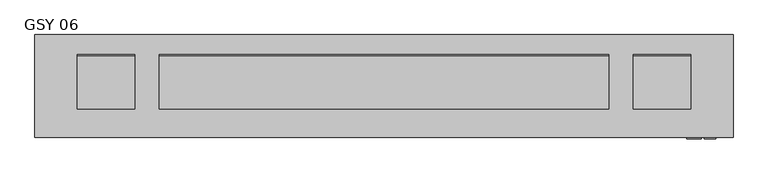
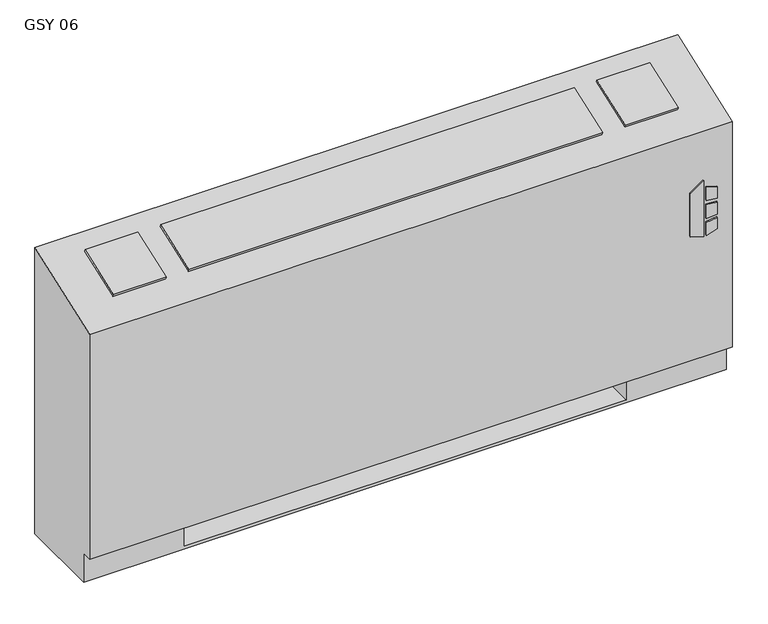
"""IFC4 building model written with IfcOpenShell, lengths in millimetres: proxy geometry, Vertical_Fan_Coil_Unit_-_GSY_-_IEC_-_2-Pipe_TS-FR_RH_2022 : GSY 06."""

from ifc_helpers import new_model, si_unit, point, frame, frame_2d, origin, place, context, project, spatial, polyline, circle_curve, trimmed, segment, composite_curve, outline, extrude, source, transform, mapped, element, save
from ifc_brep_helpers import plane_surface, revolved_surface, advanced_brep


def gsy_06_7a3696df(model_context):
    return source(origin(), model_context, "Body", "SolidModel", [
        extrude(outline(polyline([(391.6086829, 823.9868862), (381.6606126, 856.1602728), (523.831537, 856.1602728), (500.8095309, 823.9868862), (391.6086829, 823.9868862)])), frame((0.0, 12.7, 0.0), z_axis=(0.0, 1.0, 0.0), x_axis=(0.0, 0.0, 1.0)), (0.0, 0.0, 1.0), 3.175),
        extrude(outline(polyline([(470.6079683, 862.9186058), (467.4055757, 889.0), (496.6344168, 889.0), (504.6988318, 862.9186058), (470.6079683, 862.9186058)])), frame((0.0, 12.7, 0.0), z_axis=(0.0, 1.0, 0.0), x_axis=(0.0, 0.0, 1.0)), (0.0, 0.0, 1.0), 3.175),
        extrude(outline(polyline([(418.7444414, 889.0), (415.0789404, 862.9186058), (381.6606126, 862.9186058), (390.2948498, 889.0), (418.7444414, 889.0)])), frame((0.0, 12.7, 0.0), z_axis=(0.0, 1.0, 0.0), x_axis=(0.0, 0.0, 1.0)), (0.0, 0.0, 1.0), 3.175),
        extrude(outline(polyline([(458.0596028, 889.0), (460.3414292, 862.9186058), (424.4038806, 862.9186058), (427.1451456, 889.0), (458.0596028, 889.0)])), frame((0.0, 12.7, 0.0), z_axis=(0.0, 1.0, 0.0), x_axis=(0.0, 0.0, 1.0)), (0.0, 0.0, 1.0), 3.175),
        extrude(outline(polyline([(0.0, -126.2347031), (0.0, 0.0), (127.0, 0.0), (127.0, -126.2347031), (0.0, -126.2347031)])), frame((-528.193, 200.4217127, 714.3418685), z_axis=(0.0, -0.33964446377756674, 0.9405538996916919), x_axis=(1.0, 0.0, 0.0)), (0.0, 0.0, 1.0), 6.35),
        extrude(outline(polyline([(0.0, -126.2347031), (0.0, 0.0), (996.95, 0.0), (996.95, -126.2347031), (0.0, -126.2347031)])), frame((650.875, 81.6911704, 671.4669504), z_axis=(0.0, -0.3396444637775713, 0.9405538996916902), x_axis=(-1.0, 0.0, 0.0)), (0.0, 0.0, 1.0), 6.35),
        extrude(outline(polyline([(0.0, -126.2347031), (0.0, 0.0), (127.0, 0.0), (127.0, -126.2347031), (0.0, -126.2347031)])), frame((832.993, 81.6911704, 671.4669504), z_axis=(0.0, -0.3396444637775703, 0.9405538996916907), x_axis=(-1.0, 0.0, 0.0)), (0.0, 0.0, 1.0), 6.35),
        extrude(outline(polyline([(-501.65, 81.534), (-501.65, 223.266), (-127.0, 223.266), (-127.0, 81.534), (-501.65, 81.534)])), frame((0.0, 0.0, 327.025), z_axis=(0.0, 0.0, 1.0), x_axis=(1.0, 0.0, 0.0)), (0.0, 0.0, 1.0), 260.35),
        extrude(outline(composite_curve([segment(trimmed(circle_curve(frame_2d((80.645, 397.002)), 7.9375), [point((80.645, 404.9395))], [point((80.645, 389.0645))], False, "CARTESIAN"), True, "CONTINUOUS"), segment(trimmed(circle_curve(frame_2d((80.645, 397.002)), 7.9375), [point((80.645, 389.0645))], [point((80.645, 404.9395))], False, "CARTESIAN"), True, "CONTINUOUS")], self_intersect=False)), frame((685.8, 0.0, 0.0), z_axis=(1.0, 0.0, 0.0), x_axis=(0.0, 1.0, 0.0)), (0.0, 0.0, 1.0), 50.8),
        extrude(outline(composite_curve([segment(trimmed(circle_curve(frame_2d((156.8958, 535.8892)), 7.9375), [point((156.8958, 543.8267))], [point((156.8958, 527.9517))], False, "CARTESIAN"), True, "CONTINUOUS"), segment(trimmed(circle_curve(frame_2d((156.8958, 535.8892)), 7.9375), [point((156.8958, 527.9517))], [point((156.8958, 543.8267))], False, "CARTESIAN"), True, "CONTINUOUS")], self_intersect=False)), frame((685.8, 0.0, 0.0), z_axis=(1.0, 0.0, 0.0), x_axis=(0.0, 1.0, 0.0)), (0.0, 0.0, 1.0), 50.8),
        advanced_brep(
        [(-622.3, 244.475, 0.0), (927.1, 244.475, 0.0), (927.1, 41.275, 0.0), (-622.3, 41.275, 0.0), (-622.3, 244.475, 730.25), (927.1, 244.475, 730.25), (685.8, 244.475, 73.025), (914.4, 244.475, 73.025), (914.4, 244.475, 654.05), (685.8, 244.475, 654.05), (685.8, 244.475, 414.8650565), (714.375, 244.475, 414.8650565), (714.375, 244.475, 385.2349435), (685.8, 244.475, 385.2349435), (685.8, 244.475, 287.3375), (714.375, 244.475, 287.3375), (714.375, 244.475, 258.7625), (685.8, 244.475, 258.7625), (685.8, 244.475, 141.2875), (714.375, 244.475, 141.2875), (714.375, 244.475, 112.7125), (685.8, 244.475, 112.7125), (-381.0, 244.475, 654.05), (-609.6, 244.475, 654.05), (-609.6, 244.475, 73.025), (-381.0, 244.475, 73.025), (-381.0, 244.475, 112.7125), (-409.575, 244.475, 112.7125), (-409.575, 244.475, 141.2875), (-381.0, 244.475, 141.2875), (-381.0, 244.475, 258.7625), (-409.575, 244.475, 258.7625), (-409.575, 244.475, 287.3375), (-381.0, 244.475, 287.3375), (-381.0, 244.475, 385.2349435), (-409.575, 244.475, 385.2349435), (-409.575, 244.475, 414.8650565), (-381.0, 244.475, 414.8650565), (704.0626, 244.475, 127.0), (692.9374, 244.475, 127.0), (704.0626, 244.475, 400.05), (692.9374, 244.475, 400.05), (704.0626, 244.475, 273.05), (692.9374, 244.475, 273.05), (-388.1374, 244.475, 127.0), (-399.2626, 244.475, 127.0), (-388.1374, 244.475, 273.05), (-399.2626, 244.475, 273.05), (-388.1374, 244.475, 400.05), (-399.2626, 244.475, 400.05), (-622.3, 41.275, 73.025), (-622.3, 15.875, 73.025), (-622.3, 15.875, 647.7), (927.1, 15.875, 73.025), (927.1, 15.875, 647.7), (927.1, 41.275, 73.025), (-381.0, 41.275, 73.025), (-381.0, 225.425, 73.025), (685.8, 225.425, 73.025), (685.8, 41.275, 73.025), (685.8, 41.275, 6.35), (-381.0, 41.275, 6.35), (685.8, 41.275, 654.05), (914.4, 41.275, 654.05), (914.4, 41.275, 73.025), (685.8, 41.275, 73.025), (-381.0, 41.275, 654.05), (-381.0, 41.275, 73.025), (-609.6, 41.275, 73.025), (-609.6, 41.275, 654.05), (685.8, 225.425, 73.025), (685.8, 238.125, 112.7125), (685.8, 238.125, 141.2875), (685.8, 238.125, 258.7625), (685.8, 238.125, 287.3375), (685.8, 238.125, 385.2349435), (685.8, 238.125, 414.8650565), (-381.0, 225.425, 73.025), (-381.0, 238.125, 414.8650565), (-381.0, 238.125, 385.2349435), (-381.0, 238.125, 287.3375), (-381.0, 238.125, 258.7625), (-381.0, 238.125, 141.2875), (-381.0, 238.125, 112.7125), (-381.0, 225.425, 6.35), (685.8, 225.425, 6.35), (714.375, 238.125, 112.7125), (714.375, 238.125, 141.2875), (692.9374, 238.125, 127.0), (704.0626, 238.125, 127.0), (714.375, 238.125, 258.7625), (714.375, 238.125, 287.3375), (692.9374, 238.125, 273.05), (704.0626, 238.125, 273.05), (714.375, 238.125, 385.2349435), (714.375, 238.125, 414.8650565), (692.9374, 238.125, 400.05), (704.0626, 238.125, 400.05), (-409.575, 238.125, 141.2875), (-409.575, 238.125, 112.7125), (-399.2626, 238.125, 127.0), (-388.1374, 238.125, 127.0), (-409.575, 238.125, 287.3375), (-409.575, 238.125, 258.7625), (-399.2626, 238.125, 273.05), (-388.1374, 238.125, 273.05), (-409.575, 238.125, 414.8650565), (-409.575, 238.125, 385.2349435), (-399.2626, 238.125, 400.05), (-388.1374, 238.125, 400.05)],
        [
            (0, 1),
            (1, 2),
            (2, 3),
            (3, 0),
            (0, 4),
            (4, 5),
            (5, 1),
            (6, 7),
            (7, 8),
            (8, 9),
            (9, 10),
            (10, 11),
            (11, 12),
            (12, 13),
            (13, 14),
            (14, 15),
            (15, 16),
            (16, 17),
            (17, 18),
            (18, 19),
            (19, 20),
            (20, 21),
            (21, 6),
            (22, 23),
            (23, 24),
            (24, 25),
            (25, 26),
            (26, 27),
            (27, 28),
            (28, 29),
            (29, 30),
            (30, 31),
            (31, 32),
            (32, 33),
            (33, 34),
            (34, 35),
            (35, 36),
            (36, 37),
            (37, 22),
            (38, 39, circle_curve(frame((698.5, 244.475, 127.0), z_axis=(0.0, -1.0, 0.0), x_axis=(-1.0, 0.0, 0.0)), 5.5626)),
            (39, 38, circle_curve(frame((698.5, 244.475, 127.0), z_axis=(0.0, -1.0, 0.0), x_axis=(-1.0, 0.0, 0.0)), 5.5626)),
            (40, 41, circle_curve(frame((698.5, 244.475, 400.05), z_axis=(0.0, -1.0, 0.0), x_axis=(-1.0, 0.0, 0.0)), 5.5626)),
            (41, 40, circle_curve(frame((698.5, 244.475, 400.05), z_axis=(0.0, -1.0, 0.0), x_axis=(-1.0, 0.0, 0.0)), 5.5626)),
            (42, 43, circle_curve(frame((698.5, 244.475, 273.05), z_axis=(0.0, -1.0, 0.0), x_axis=(-1.0, 0.0, 0.0)), 5.5626)),
            (43, 42, circle_curve(frame((698.5, 244.475, 273.05), z_axis=(0.0, -1.0, 0.0), x_axis=(-1.0, 0.0, 0.0)), 5.5626)),
            (44, 45, circle_curve(frame((-393.7, 244.475, 127.0), z_axis=(0.0, -1.0, 0.0), x_axis=(-1.0, 0.0, 0.0)), 5.5626)),
            (45, 44, circle_curve(frame((-393.7, 244.475, 127.0), z_axis=(0.0, -1.0, 0.0), x_axis=(-1.0, 0.0, 0.0)), 5.5626)),
            (46, 47, circle_curve(frame((-393.7, 244.475, 273.05), z_axis=(0.0, -1.0, 0.0), x_axis=(-1.0, 0.0, 0.0)), 5.5626)),
            (47, 46, circle_curve(frame((-393.7, 244.475, 273.05), z_axis=(0.0, -1.0, 0.0), x_axis=(-1.0, 0.0, 0.0)), 5.5626)),
            (48, 49, circle_curve(frame((-393.7, 244.475, 400.05), z_axis=(0.0, -1.0, 0.0), x_axis=(-1.0, 0.0, 0.0)), 5.5626)),
            (49, 48, circle_curve(frame((-393.7, 244.475, 400.05), z_axis=(0.0, -1.0, 0.0), x_axis=(-1.0, 0.0, 0.0)), 5.5626)),
            (3, 50),
            (50, 51),
            (51, 52),
            (52, 4),
            (51, 53),
            (53, 54),
            (54, 52),
            (5, 54),
            (53, 55),
            (55, 2),
            (50, 56),
            (56, 57),
            (57, 58),
            (58, 59),
            (59, 55),
            (59, 60),
            (60, 61),
            (61, 56),
            (62, 63),
            (63, 64),
            (64, 65),
            (65, 62),
            (66, 67),
            (67, 68),
            (68, 69),
            (69, 66),
            (65, 70),
            (70, 6),
            (21, 71),
            (71, 72),
            (72, 18),
            (17, 73),
            (73, 74),
            (74, 14),
            (13, 75),
            (75, 76),
            (76, 10),
            (9, 62),
            (64, 7),
            (63, 8),
            (69, 23),
            (22, 66),
            (68, 24),
            (67, 77),
            (77, 25),
            (37, 78),
            (78, 79),
            (79, 34),
            (33, 80),
            (80, 81),
            (81, 30),
            (29, 82),
            (82, 83),
            (83, 26),
            (57, 84),
            (84, 85),
            (85, 58),
            (85, 60),
            (84, 61),
            (71, 86),
            (86, 87),
            (87, 72),
            (88, 89, circle_curve(frame((698.5, 238.125, 127.0), z_axis=(0.0, 1.0, 0.0), x_axis=(-1.0, 0.0, 0.0)), 5.5626)),
            (89, 88, circle_curve(frame((698.5, 238.125, 127.0), z_axis=(0.0, 1.0, 0.0), x_axis=(-1.0, 0.0, 0.0)), 5.5626)),
            (73, 90),
            (90, 91),
            (91, 74),
            (92, 93, circle_curve(frame((698.5, 238.125, 273.05), z_axis=(0.0, 1.0, 0.0), x_axis=(-1.0, 0.0, 0.0)), 5.5626)),
            (93, 92, circle_curve(frame((698.5, 238.125, 273.05), z_axis=(0.0, 1.0, 0.0), x_axis=(-1.0, 0.0, 0.0)), 5.5626)),
            (75, 94),
            (94, 95),
            (95, 76),
            (96, 97, circle_curve(frame((698.5, 238.125, 400.05), z_axis=(0.0, 1.0, 0.0), x_axis=(-1.0, 0.0, 0.0)), 5.5626)),
            (97, 96, circle_curve(frame((698.5, 238.125, 400.05), z_axis=(0.0, 1.0, 0.0), x_axis=(-1.0, 0.0, 0.0)), 5.5626)),
            (98, 99),
            (99, 83),
            (82, 98),
            (100, 101, circle_curve(frame((-393.7, 238.125, 127.0), z_axis=(0.0, 1.0, 0.0), x_axis=(-1.0, 0.0, 0.0)), 5.5626)),
            (101, 100, circle_curve(frame((-393.7, 238.125, 127.0), z_axis=(0.0, 1.0, 0.0), x_axis=(-1.0, 0.0, 0.0)), 5.5626)),
            (102, 103),
            (103, 81),
            (80, 102),
            (104, 105, circle_curve(frame((-393.7, 238.125, 273.05), z_axis=(0.0, 1.0, 0.0), x_axis=(-1.0, 0.0, 0.0)), 5.5626)),
            (105, 104, circle_curve(frame((-393.7, 238.125, 273.05), z_axis=(0.0, 1.0, 0.0), x_axis=(-1.0, 0.0, 0.0)), 5.5626)),
            (106, 107),
            (107, 79),
            (78, 106),
            (108, 109, circle_curve(frame((-393.7, 238.125, 400.05), z_axis=(0.0, 1.0, 0.0), x_axis=(-1.0, 0.0, 0.0)), 5.5626)),
            (109, 108, circle_curve(frame((-393.7, 238.125, 400.05), z_axis=(0.0, 1.0, 0.0), x_axis=(-1.0, 0.0, 0.0)), 5.5626)),
            (87, 19),
            (86, 20),
            (91, 15),
            (90, 16),
            (95, 11),
            (94, 12),
            (28, 98),
            (99, 27),
            (32, 102),
            (103, 31),
            (36, 106),
            (107, 35),
            (88, 39),
            (38, 89),
            (96, 41),
            (40, 97),
            (92, 43),
            (42, 93),
            (100, 45),
            (44, 101),
            (104, 47),
            (46, 105),
            (108, 49),
            (48, 109),
        ],
        [
            plane_surface(frame((-622.3, 244.475, 0.0), z_axis=(0.0, 0.0, -1.0), x_axis=(1.0, 0.0, 0.0))),
            plane_surface(frame((927.1, 244.475, 730.25), z_axis=(0.0, 1.0, 0.0), x_axis=(0.0, 0.0, -1.0))),
            plane_surface(frame((-622.3, 244.475, 730.25), z_axis=(-1.0, 0.0, 0.0), x_axis=(0.0, 0.0, -1.0))),
            plane_surface(frame((-622.3, 15.875, 730.25), z_axis=(0.0, -1.0, 0.0), x_axis=(0.0, 0.0, -1.0))),
            plane_surface(frame((927.1, 15.875, 730.25), z_axis=(1.0, 0.0, 0.0), x_axis=(0.0, 0.0, -1.0))),
            plane_surface(frame((-622.3, 15.875, 73.025), z_axis=(0.0, 0.0, -1.0), x_axis=(1.0, 0.0, 0.0))),
            plane_surface(frame((-622.3, 41.275, 73.025), z_axis=(0.0, -1.0, 0.0), x_axis=(1.0, 0.0, 0.0))),
            plane_surface(frame((685.8, 41.275, 654.05), z_axis=(0.0, 1.0, 0.0), x_axis=(0.0, 0.0, -1.0))),
            plane_surface(frame((685.8, 41.275, 654.05), z_axis=(1.0, 0.0, 0.0), x_axis=(0.0, 1.0, 0.0))),
            plane_surface(frame((685.8, 41.275, 73.025), z_axis=(0.0, 0.0, 1.0), x_axis=(0.0, 1.0, 0.0))),
            plane_surface(frame((914.4, 41.275, 73.025), z_axis=(-1.0, 0.0, 0.0), x_axis=(0.0, 1.0, 0.0))),
            plane_surface(frame((914.4, 41.275, 654.05), z_axis=(0.0, 0.0, -1.0), x_axis=(0.0, 1.0, 0.0))),
            plane_surface(frame((-381.0, 41.275, 654.05), z_axis=(0.0, 0.0, -1.0), x_axis=(0.0, 1.0, 0.0))),
            plane_surface(frame((-609.6, 41.275, 654.05), z_axis=(1.0, 0.0, 0.0), x_axis=(0.0, 1.0, 0.0))),
            plane_surface(frame((-609.6, 41.275, 73.025), z_axis=(0.0, 0.0, 1.0), x_axis=(0.0, 1.0, 0.0))),
            plane_surface(frame((-381.0, 41.275, 73.025), z_axis=(-1.0, 0.0, 0.0), x_axis=(0.0, 1.0, 0.0))),
            plane_surface(frame((685.8, 225.425, 73.025), z_axis=(0.0, -1.0, 0.0), x_axis=(0.0, 0.0, -1.0))),
            plane_surface(frame((685.8, 225.425, 73.025), z_axis=(-1.0, 0.0, 0.0), x_axis=(0.0, -1.0, 0.0))),
            plane_surface(frame((685.8, 225.425, 6.35), z_axis=(0.0, 0.0, 1.0), x_axis=(0.0, -1.0, 0.0))),
            plane_surface(frame((-381.0, 225.425, 6.35), z_axis=(1.0, 0.0, 0.0), x_axis=(0.0, -1.0, 0.0))),
            plane_surface(frame((714.375, 238.125, 141.2875), z_axis=(0.0, -1.0, 0.0), x_axis=(-1.0, 0.0, 0.0))),
            plane_surface(frame((685.8, 244.475, 141.2875), z_axis=(0.0, 0.0, 1.0), x_axis=(0.0, -1.0, 0.0))),
            plane_surface(frame((714.375, 244.475, 141.2875), z_axis=(1.0, 0.0, 0.0), x_axis=(0.0, -1.0, 0.0))),
            plane_surface(frame((714.375, 244.475, 112.7125), z_axis=(0.0, 0.0, -1.0), x_axis=(0.0, -1.0, 0.0))),
            plane_surface(frame((685.8, 244.475, 287.3375), z_axis=(0.0, 0.0, 1.0), x_axis=(0.0, -1.0, 0.0))),
            plane_surface(frame((714.375, 244.475, 287.3375), z_axis=(1.0, 0.0, 0.0), x_axis=(0.0, -1.0, 0.0))),
            plane_surface(frame((714.375, 244.475, 258.7625), z_axis=(0.0, 0.0, -1.0), x_axis=(0.0, -1.0, 0.0))),
            plane_surface(frame((685.8, 244.475, 414.8650565), z_axis=(0.0, 0.0, 1.0), x_axis=(0.0, -1.0, 0.0))),
            plane_surface(frame((714.375, 244.475, 414.8650565), z_axis=(1.0, 0.0, 0.0), x_axis=(0.0, -1.0, 0.0))),
            plane_surface(frame((714.375, 244.475, 385.2349435), z_axis=(0.0, 0.0, -1.0), x_axis=(0.0, -1.0, 0.0))),
            plane_surface(frame((-409.575, 244.475, 141.2875), z_axis=(0.0, 0.0, 1.0), x_axis=(0.0, -1.0, 0.0))),
            plane_surface(frame((-381.0, 244.475, 112.7125), z_axis=(0.0, 0.0, -1.0), x_axis=(0.0, -1.0, 0.0))),
            plane_surface(frame((-409.575, 244.475, 112.7125), z_axis=(-1.0, 0.0, 0.0), x_axis=(0.0, -1.0, 0.0))),
            plane_surface(frame((-409.575, 244.475, 287.3375), z_axis=(0.0, 0.0, 1.0), x_axis=(0.0, -1.0, 0.0))),
            plane_surface(frame((-381.0, 244.475, 258.7625), z_axis=(0.0, 0.0, -1.0), x_axis=(0.0, -1.0, 0.0))),
            plane_surface(frame((-409.575, 244.475, 258.7625), z_axis=(-1.0, 0.0, 0.0), x_axis=(0.0, -1.0, 0.0))),
            plane_surface(frame((-409.575, 244.475, 414.8650565), z_axis=(0.0, 0.0, 1.0), x_axis=(0.0, -1.0, 0.0))),
            plane_surface(frame((-381.0, 244.475, 385.2349435), z_axis=(0.0, 0.0, -1.0), x_axis=(0.0, -1.0, 0.0))),
            plane_surface(frame((-409.575, 244.475, 385.2349435), z_axis=(-1.0, 0.0, 0.0), x_axis=(0.0, -1.0, 0.0))),
            revolved_surface(polyline([(692.9374, 238.125, 127.0), (692.9374, 244.475, 127.0)]), (698.5, 244.475, 127.0), (0.0, -1.0, 0.0)),
            revolved_surface(polyline([(692.9374, 238.125, 400.05), (692.9374, 244.475, 400.05)]), (698.5, 244.475, 400.05), (0.0, -1.0, 0.0)),
            revolved_surface(polyline([(692.9374, 238.125, 273.05), (692.9374, 244.475, 273.05)]), (698.5, 244.475, 273.05), (0.0, -1.0, 0.0)),
            revolved_surface(polyline([(-399.26259999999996, 238.125, 127.0), (-399.26259999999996, 244.475, 127.0)]), (-393.7, 244.475, 127.0), (0.0, -1.0, 0.0)),
            revolved_surface(polyline([(-399.26259999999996, 238.125, 273.05), (-399.26259999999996, 244.475, 273.05)]), (-393.7, 244.475, 273.05), (0.0, -1.0, 0.0)),
            revolved_surface(polyline([(-399.26259999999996, 238.125, 400.05), (-399.26259999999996, 244.475, 400.05)]), (-393.7, 244.475, 400.05), (0.0, -1.0, 0.0)),
            plane_surface(frame((-622.3, 244.475, 730.25), z_axis=(0.0, -0.33964446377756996, 0.9405538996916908), x_axis=(1.0, 0.0, 0.0))),
        ],
        [
            (0, [[1, 2, 3, 4]]),
            (1, [[-1, 5, 6, 7], [8, 9, 10, 11, 12, 13, 14, 15, 16, 17, 18, 19, 20, 21, 22, 23], [24, 25, 26, 27, 28, 29, 30, 31, 32, 33, 34, 35, 36, 37, 38, 39], [40, 41], [42, 43], [44, 45], [46, 47], [48, 49], [50, 51]]),
            (2, [[-5, -4, 52, 53, 54, 55]]),
            (3, [[56, 57, 58, -54]]),
            (4, [[-7, 59, -57, 60, 61, -2]]),
            (5, [[-53, 62, 63, 64, 65, 66, -60, -56]]),
            (6, [[-3, -61, -66, 67, 68, 69, -62, -52]]),
            (7, [[70, 71, 72, 73]]),
            (7, [[74, 75, 76, 77]]),
            (8, [[-73, 78, 79, -23, 80, 81, 82, -19, 83, 84, 85, -15, 86, 87, 88, -11, 89]]),
            (9, [[-72, 90, -8, -79, -78]]),
            (10, [[-71, 91, -9, -90]]),
            (11, [[-70, -89, -10, -91]]),
            (12, [[-77, 92, -24, 93]]),
            (13, [[-76, 94, -25, -92]]),
            (14, [[-75, 95, 96, -26, -94]]),
            (15, [[-74, -93, -39, 97, 98, 99, -35, 100, 101, 102, -31, 103, 104, 105, -27, -96, -95]]),
            (16, [[-64, 106, 107, 108]]),
            (17, [[-108, 109, -67, -65]]),
            (18, [[-107, 110, -68, -109]]),
            (19, [[-106, -63, -69, -110]]),
            (20, [[111, 112, 113, -81], [114, 115]]),
            (20, [[116, 117, 118, -84], [119, 120]]),
            (20, [[121, 122, 123, -87], [124, 125]]),
            (20, [[126, 127, -104, 128], [129, 130]]),
            (20, [[131, 132, -101, 133], [134, 135]]),
            (20, [[136, 137, -98, 138], [139, 140]]),
            (21, [[-113, 141, -20, -82]]),
            (22, [[-112, 142, -21, -141]]),
            (23, [[-111, -80, -22, -142]]),
            (24, [[-118, 143, -16, -85]]),
            (25, [[-117, 144, -17, -143]]),
            (26, [[-116, -83, -18, -144]]),
            (27, [[-123, 145, -12, -88]]),
            (28, [[-122, 146, -13, -145]]),
            (29, [[-121, -86, -14, -146]]),
            (30, [[-128, -103, -30, 147]]),
            (31, [[-127, 148, -28, -105]]),
            (32, [[-126, -147, -29, -148]]),
            (33, [[-133, -100, -34, 149]]),
            (34, [[-132, 150, -32, -102]]),
            (35, [[-131, -149, -33, -150]]),
            (36, [[-138, -97, -38, 151]]),
            (37, [[-137, 152, -36, -99]]),
            (38, [[-136, -151, -37, -152]]),
            (39, [[153, -40, 154, -114]]),
            (39, [[-153, -115, -154, -41]]),
            (40, [[155, -42, 156, -124]]),
            (40, [[-155, -125, -156, -43]]),
            (41, [[157, -44, 158, -119]]),
            (41, [[-157, -120, -158, -45]]),
            (42, [[159, -46, 160, -129]]),
            (42, [[-159, -130, -160, -47]]),
            (43, [[161, -48, 162, -134]]),
            (43, [[-161, -135, -162, -49]]),
            (44, [[163, -50, 164, -139]]),
            (44, [[-163, -140, -164, -51]]),
            (45, [[-6, -55, -58, -59]]),
        ],
    ),
    ])


if __name__ == "__main__":
    model = new_model("IFC4")
    model_context = context("Model", 3, world=origin())
    ifc_project = project(units=[si_unit("LENGTHUNIT", "METRE", prefix="MILLI")], contexts=[model_context])
    site = spatial("IfcSite", under=ifc_project)
    building = spatial("IfcBuilding", under=site)
    placement = place(None, origin())
    gsy_06_shape = gsy_06_7a3696df(model_context)
    element("IfcBuildingElementProxy", 1, Name="Vertical_Fan_Coil_Unit_-_GSY_-_IEC_-_2-Pipe_TS-FR_RH_2022 : GSY 06", ObjectType="Vertical_Fan_Coil_Unit_-_GSY_-_IEC_-_2-Pipe_TS-FR_RH_2022 : GSY 06", at=placement, inside=building, context=model_context, shape_type="MappedRepresentation", body=[
        mapped(gsy_06_shape, transform((0.0, 0.0, 0.0), x_axis=(1.0, 0.0, 0.0), y_axis=(0.0, 1.0, 0.0), z_axis=(0.0, 0.0, 1.0))),
    ])
    save(model, "model.ifc")
